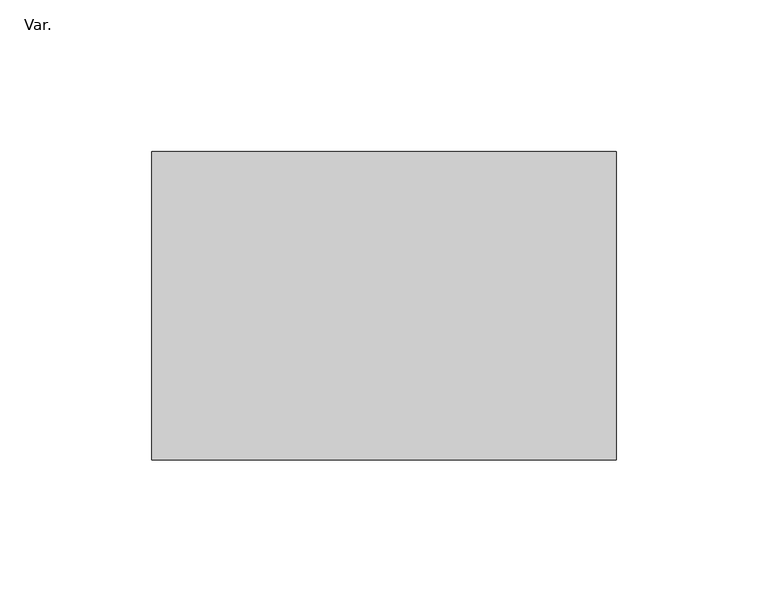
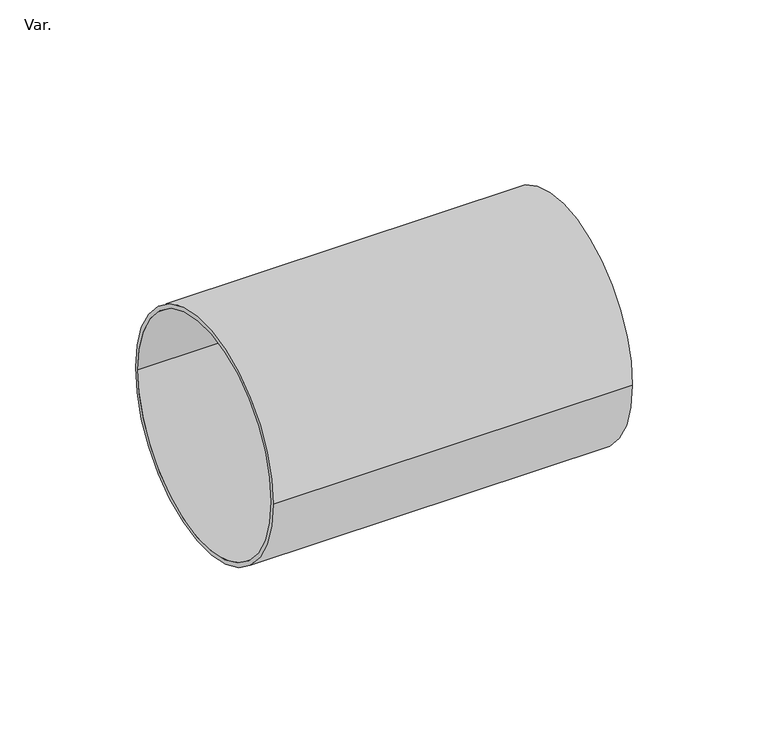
"""IFC4 building model written with IfcOpenShell, lengths in millimetres: pipe fitting geometry, AmancoWavin_ConexõesdeTubos_EsgotoZNãoUsarEsgotoCaixaSifProlongamento : Var.."""

from ifc_helpers import new_model, si_unit, point, frame, origin, origin_2d, place, context, project, spatial, circle_curve, trimmed, segment, composite_curve, outline, extrude, source, transform, mapped, element, save


def var_c8ad4ade(model_context):
    return source(origin(), model_context, "Body", "SweptSolid", [
        extrude(outline(composite_curve([segment(trimmed(circle_curve(origin_2d(), 50.8), [point((-50.8, 0.0))], [point((50.8, 0.0))], False, "CARTESIAN"), True, "CONTINUOUS"), segment(trimmed(circle_curve(origin_2d(), 50.8), [point((50.8, 0.0))], [point((-50.8, 0.0))], False, "CARTESIAN"), True, "CONTINUOUS")], self_intersect=False), holes=[composite_curve([segment(trimmed(circle_curve(origin_2d(), 49.0), [point((-49.0, 0.0))], [point((49.0, 0.0))], True, "CARTESIAN"), True, "CONTINUOUS"), segment(trimmed(circle_curve(origin_2d(), 49.0), [point((49.0, 0.0))], [point((-49.0, 0.0))], True, "CARTESIAN"), True, "CONTINUOUS")], self_intersect=False)]), frame((0.0, 0.0, 0.0), z_axis=(1.0, 0.0, 0.0), x_axis=(0.0, 1.0, 0.0)), (0.0, 0.0, 1.0), 153.0),
    ])


if __name__ == "__main__":
    model = new_model("IFC4")
    model_context = context("Model", 3, world=origin())
    ifc_project = project(units=[si_unit("LENGTHUNIT", "METRE", prefix="MILLI")], contexts=[model_context])
    site = spatial("IfcSite", under=ifc_project)
    building = spatial("IfcBuilding", under=site)
    placement = place(None, origin())
    var_shape = var_c8ad4ade(model_context)
    element("IfcPipeFitting", 1, ObjectType="AmancoWavin_ConexõesdeTubos_EsgotoZNãoUsarEsgotoCaixaSifProlongamento : Var.", at=placement, inside=building, context=model_context, shape_type="MappedRepresentation", body=[
        mapped(var_shape, transform((0.0, 0.0, 0.0), x_axis=(1.0, 0.0, 0.0), y_axis=(0.0, 1.0, 0.0), z_axis=(0.0, 0.0, 1.0))),
    ])
    save(model, "model.ifc")
